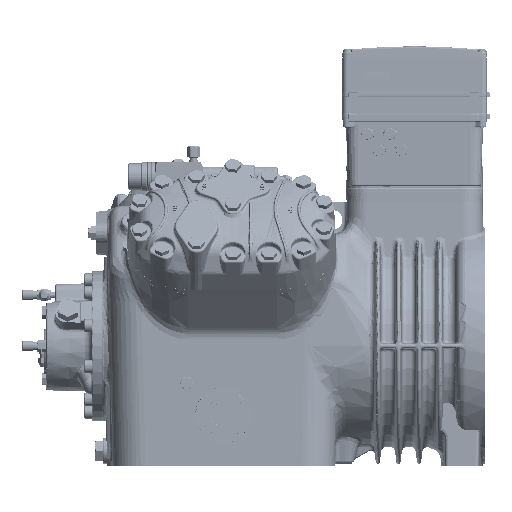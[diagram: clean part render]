
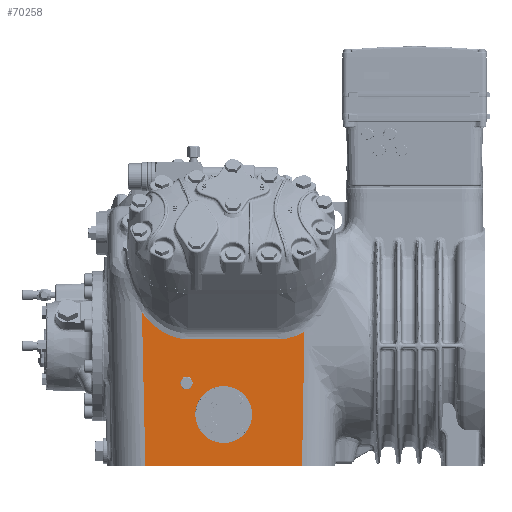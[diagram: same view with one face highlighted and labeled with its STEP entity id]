
A CAD part, front view. The second image highlights one B-rep face of the part: STEP entity #70258.
In plain terms, the highlighted planar face has unit normal (0, -1, -0.014).
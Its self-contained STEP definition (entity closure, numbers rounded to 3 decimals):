
#40415=ELLIPSE('',#177172,6.859,6.858);
#40416=ELLIPSE('',#177173,34.503,34.5);
#40417=ELLIPSE('',#177174,129.647,90.371);
#43075=FACE_BOUND('',#87115,.T.);
#43076=FACE_BOUND('',#87116,.T.);
#43077=FACE_BOUND('',#87117,.T.);
#53355=PLANE('',#177175);
#56616=LINE('',#232219,#63360);
#56617=LINE('',#232222,#63361);
#56618=LINE('',#232224,#63362);
#56619=LINE('',#232228,#63363);
#63360=VECTOR('',#192347,1.);
#63361=VECTOR('',#192348,1.);
#63362=VECTOR('',#192349,1.);
#63363=VECTOR('',#192352,1.);
#70258=ADVANCED_FACE('',(#43075,#43076,#43077),#53355,.T.);
#87115=EDGE_LOOP('',(#97858));
#87116=EDGE_LOOP('',(#97859));
#87117=EDGE_LOOP('',(#97860,#97861,#97862,#97863,#97864,#97865));
#97858=ORIENTED_EDGE('',*,*,#151527,.F.);
#97859=ORIENTED_EDGE('',*,*,#151528,.F.);
#97860=ORIENTED_EDGE('',*,*,#151529,.T.);
#97861=ORIENTED_EDGE('',*,*,#151530,.T.);
#97862=ORIENTED_EDGE('',*,*,#151531,.T.);
#97863=ORIENTED_EDGE('',*,*,#151532,.T.);
#97864=ORIENTED_EDGE('',*,*,#151533,.T.);
#97865=ORIENTED_EDGE('',*,*,#151534,.T.);
#138374=VERTEX_POINT('',#232216);
#138375=VERTEX_POINT('',#232218);
#138376=VERTEX_POINT('',#232220);
#138377=VERTEX_POINT('',#232221);
#138378=VERTEX_POINT('',#232223);
#138379=VERTEX_POINT('',#232225);
#138380=VERTEX_POINT('',#232227);
#138381=VERTEX_POINT('',#232229);
#151527=EDGE_CURVE('',#138374,#138374,#40415,.T.);
#151528=EDGE_CURVE('',#138375,#138375,#40416,.T.);
#151529=EDGE_CURVE('',#138376,#138377,#56616,.T.);
#151530=EDGE_CURVE('',#138377,#138378,#56617,.T.);
#151531=EDGE_CURVE('',#138378,#138379,#56618,.T.);
#151532=EDGE_CURVE('',#138379,#138380,#40417,.T.);
#151533=EDGE_CURVE('',#138380,#138381,#56619,.T.);
#151534=EDGE_CURVE('',#138381,#138376,#171573,.T.);
#171573=B_SPLINE_CURVE_WITH_KNOTS('',3,(#232230,#232231,#232232,#232233,
#232234,#232235,#232236,#232237,#232238,#232239,#232240,#232241,#232242,
#232243,#232244,#232245,#232246,#232247,#232248,#232249,#232250,#232251),
 .UNSPECIFIED.,.F.,.F.,(4,1,2,2,1,1,2,2,1,1,1,2,2,4),(0.,0.125,
0.187,0.25,0.375,0.437,
0.469,0.5,0.625,0.687,0.719,
0.734,0.75,1.),.UNSPECIFIED.);
#177172=AXIS2_PLACEMENT_3D('',#232215,#192343,#192344);
#177173=AXIS2_PLACEMENT_3D('',#232217,#192345,#192346);
#177174=AXIS2_PLACEMENT_3D('',#232226,#192350,#192351);
#177175=AXIS2_PLACEMENT_3D('',#232252,#192353,#192354);
#192343=DIRECTION('',(0.,-1.,-0.014));
#192344=DIRECTION('',(0.,0.014,-1.));
#192345=DIRECTION('',(0.,-1.,-0.014));
#192346=DIRECTION('',(0.,0.014,-1.));
#192347=DIRECTION('',(0.022,0.014,-1.));
#192348=DIRECTION('',(1.,0.,0.));
#192349=DIRECTION('',(0.017,-0.014,1.));
#192350=DIRECTION('',(0.,1.,0.014));
#192351=DIRECTION('',(0.,0.014,-1.));
#192352=DIRECTION('',(-1.,0.,0.));
#192353=DIRECTION('',(0.,-1.,-0.014));
#192354=DIRECTION('',(0.,0.014,-1.));
#232215=CARTESIAN_POINT('',(101.1,-117.005,78.69));
#232216=CARTESIAN_POINT('',(101.1,-116.909,71.832));
#232217=CARTESIAN_POINT('',(146.1,-116.474,40.69));
#232218=CARTESIAN_POINT('',(146.1,-115.993,6.19));
#232219=CARTESIAN_POINT('',(51.207,-115.54,-26.196));
#232220=CARTESIAN_POINT('',(46.956,-118.199,164.173));
#232221=CARTESIAN_POINT('',(51.095,-115.61,-21.21));
#232222=CARTESIAN_POINT('',(270.1,-115.61,-21.21));
#232223=CARTESIAN_POINT('',(241.105,-115.61,-21.21));
#232224=CARTESIAN_POINT('',(241.112,-115.616,-20.804));
#232225=CARTESIAN_POINT('',(243.932,-117.871,140.708));
#232226=CARTESIAN_POINT('',(211.,-119.557,261.429));
#232227=CARTESIAN_POINT('',(211.,-117.747,131.794));
#232228=CARTESIAN_POINT('',(103.,-117.747,131.794));
#232229=CARTESIAN_POINT('',(103.,-117.747,131.794));
#232230=CARTESIAN_POINT('',(103.,-117.747,131.794));
#232231=CARTESIAN_POINT('',(100.366,-117.747,131.794));
#232232=CARTESIAN_POINT('',(96.412,-117.751,132.095));
#232233=CARTESIAN_POINT('',(92.456,-117.761,132.846));
#232234=CARTESIAN_POINT('',(89.817,-117.77,133.447));
#232235=CARTESIAN_POINT('',(88.448,-117.775,133.813));
#232236=CARTESIAN_POINT('',(84.637,-117.791,134.97));
#232237=CARTESIAN_POINT('',(80.878,-117.811,136.388));
#232238=CARTESIAN_POINT('',(76.583,-117.84,138.5));
#232239=CARTESIAN_POINT('',(74.762,-117.854,139.503));
#232240=CARTESIAN_POINT('',(73.552,-117.864,140.194));
#232241=CARTESIAN_POINT('',(72.916,-117.869,140.57));
#232242=CARTESIAN_POINT('',(70.077,-117.893,142.306));
#232243=CARTESIAN_POINT('',(66.703,-117.926,144.629));
#232244=CARTESIAN_POINT('',(62.826,-117.97,147.762));
#232245=CARTESIAN_POINT('',(60.903,-117.993,149.434));
#232246=CARTESIAN_POINT('',(60.081,-118.003,150.173));
#232247=CARTESIAN_POINT('',(59.535,-118.01,150.67));
#232248=CARTESIAN_POINT('',(59.233,-118.014,150.948));
#232249=CARTESIAN_POINT('',(55.086,-118.068,154.81));
#232250=CARTESIAN_POINT('',(51.075,-118.128,159.143));
#232251=CARTESIAN_POINT('',(46.956,-118.199,164.173));
#232252=CARTESIAN_POINT('',(270.1,-115.609,-21.31));
